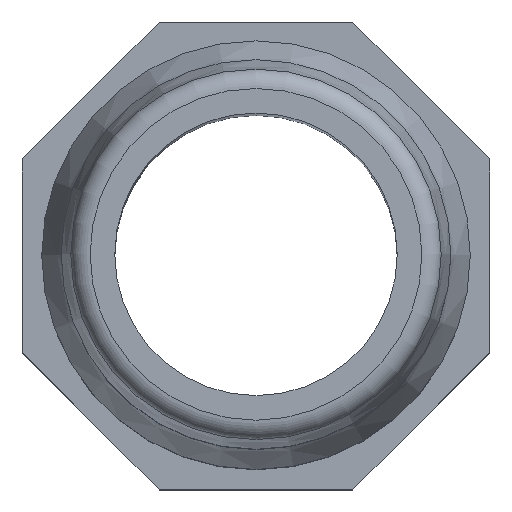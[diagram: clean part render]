
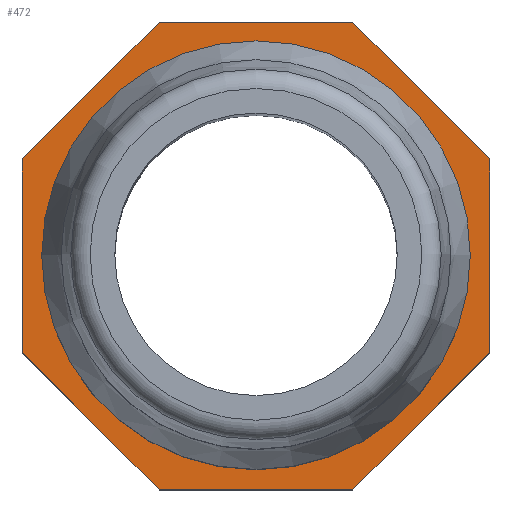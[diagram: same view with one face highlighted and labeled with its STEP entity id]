
A CAD part, top view. The second image highlights one B-rep face of the part: STEP entity #472.
In plain terms, the highlighted planar face has unit normal (0, 0, 1).
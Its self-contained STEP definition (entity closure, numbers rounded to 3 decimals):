
#20=LINE('',#3939,#47);
#21=LINE('',#3941,#48);
#22=LINE('',#3943,#49);
#23=LINE('',#3945,#50);
#24=LINE('',#3947,#51);
#25=LINE('',#3949,#52);
#26=LINE('',#3951,#53);
#27=LINE('',#3952,#54);
#47=VECTOR('',#581,9.941);
#48=VECTOR('',#582,9.941);
#49=VECTOR('',#583,9.941);
#50=VECTOR('',#584,9.941);
#51=VECTOR('',#585,9.941);
#52=VECTOR('',#586,9.941);
#53=VECTOR('',#587,9.941);
#54=VECTOR('',#588,9.941);
#89=PLANE('',#511);
#116=FACE_BOUND('',#180,.T.);
#142=FACE_OUTER_BOUND('',#179,.T.);
#179=EDGE_LOOP('',(#379,#380,#381,#382,#383,#384,#385,#386));
#180=EDGE_LOOP('',(#387));
#227=CIRCLE('',#512,10.3);
#255=VERTEX_POINT('',#3937);
#256=VERTEX_POINT('',#3938);
#257=VERTEX_POINT('',#3940);
#258=VERTEX_POINT('',#3942);
#259=VERTEX_POINT('',#3944);
#260=VERTEX_POINT('',#3946);
#261=VERTEX_POINT('',#3948);
#262=VERTEX_POINT('',#3950);
#263=VERTEX_POINT('',#3953);
#306=EDGE_CURVE('',#255,#256,#20,.T.);
#307=EDGE_CURVE('',#256,#257,#21,.T.);
#308=EDGE_CURVE('',#257,#258,#22,.T.);
#309=EDGE_CURVE('',#258,#259,#23,.T.);
#310=EDGE_CURVE('',#259,#260,#24,.T.);
#311=EDGE_CURVE('',#260,#261,#25,.T.);
#312=EDGE_CURVE('',#261,#262,#26,.T.);
#313=EDGE_CURVE('',#262,#255,#27,.T.);
#314=EDGE_CURVE('',#263,#263,#227,.T.);
#379=ORIENTED_EDGE('',*,*,#306,.T.);
#380=ORIENTED_EDGE('',*,*,#307,.T.);
#381=ORIENTED_EDGE('',*,*,#308,.T.);
#382=ORIENTED_EDGE('',*,*,#309,.T.);
#383=ORIENTED_EDGE('',*,*,#310,.T.);
#384=ORIENTED_EDGE('',*,*,#311,.T.);
#385=ORIENTED_EDGE('',*,*,#312,.T.);
#386=ORIENTED_EDGE('',*,*,#313,.T.);
#387=ORIENTED_EDGE('',*,*,#314,.F.);
#472=ADVANCED_FACE('',(#142,#116),#89,.T.);
#511=AXIS2_PLACEMENT_3D('',#3936,#579,#580);
#512=AXIS2_PLACEMENT_3D('',#3954,#589,#590);
#579=DIRECTION('center_axis',(0.,0.,1.));
#580=DIRECTION('ref_axis',(1.,0.,0.));
#581=DIRECTION('',(-0.707,-0.707,0.));
#582=DIRECTION('',(0.,-1.,0.));
#583=DIRECTION('',(0.707,-0.707,0.));
#584=DIRECTION('',(1.,0.,0.));
#585=DIRECTION('',(0.707,0.707,0.));
#586=DIRECTION('',(0.,1.,0.));
#587=DIRECTION('',(-0.707,0.707,0.));
#588=DIRECTION('',(-1.,0.,0.));
#589=DIRECTION('center_axis',(0.,0.,1.));
#590=DIRECTION('ref_axis',(1.,0.,0.));
#3936=CARTESIAN_POINT('Origin',(0.,0.,
27.));
#3937=CARTESIAN_POINT('',(-4.971,12.,27.));
#3938=CARTESIAN_POINT('',(-12.,4.971,27.));
#3939=CARTESIAN_POINT('',(-4.971,12.,27.));
#3940=CARTESIAN_POINT('',(-12.,-4.971,27.));
#3941=CARTESIAN_POINT('',(-12.,4.971,27.));
#3942=CARTESIAN_POINT('',(-4.971,-12.,27.));
#3943=CARTESIAN_POINT('',(-12.,-4.971,27.));
#3944=CARTESIAN_POINT('',(4.971,-12.,27.));
#3945=CARTESIAN_POINT('',(-4.971,-12.,27.));
#3946=CARTESIAN_POINT('',(12.,-4.971,27.));
#3947=CARTESIAN_POINT('',(4.971,-12.,27.));
#3948=CARTESIAN_POINT('',(12.,4.971,27.));
#3949=CARTESIAN_POINT('',(12.,-4.971,27.));
#3950=CARTESIAN_POINT('',(4.971,12.,27.));
#3951=CARTESIAN_POINT('',(12.,4.971,27.));
#3952=CARTESIAN_POINT('',(4.971,12.,27.));
#3953=CARTESIAN_POINT('',(-10.3,0.,27.));
#3954=CARTESIAN_POINT('Origin',(0.,0.,27.));
